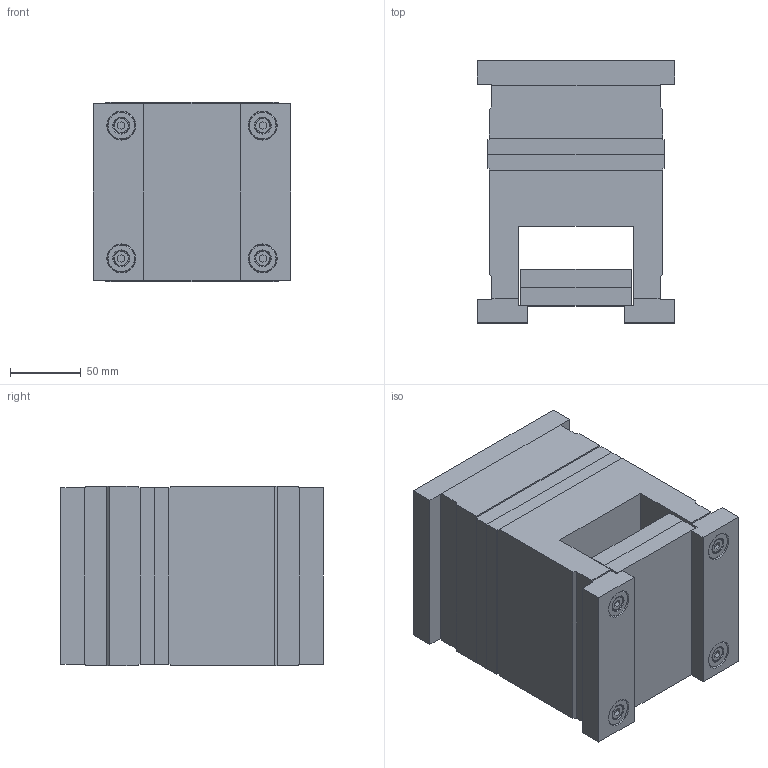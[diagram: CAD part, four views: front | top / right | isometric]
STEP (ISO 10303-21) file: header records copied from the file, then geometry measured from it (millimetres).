
FILE_DESCRIPTION (( 'STEP AP214' ), '1' );
FILE_NAME ('1251.STEP', '2002-07-10T07:47:22', ( 'Simcha Kilim' ), ( 'K. Plastics Engineering' ), 'SwSTEP 2.0', 'SolidWorks 2002025', '' );
FILE_SCHEMA (( 'AUTOMOTIVE_DESIGN' ));
Length unit declared in the file: millimetre
Products named in the file (12): 1251; ALMO (ejector half)_1251; ALMO (hot half)_1251; ALMO (guide bush)_Ø11; ALMO (screw)_M6x80; ALMO (ejector plate)_1251; ALMO (guide pin)_Ø10; ALMO (guide pin)_Ø11; ALMO (screw)_M6x50; ALMO (ejector return plate)_1251; ALMO (guide bush)_Ø10; ALMO (key plate)_Ø10
Assembly tree (28 placements, depth 2):
  1251
    ALMO (key plate)_Ø10  x8
    ALMO (screw)_M6x80  x4
    ALMO (screw)_M6x50  x4
    ALMO (guide pin)_Ø10  x3
    ALMO (guide bush)_Ø10  x3
    ALMO (hot half)_1251
    ALMO (guide pin)_Ø11
    ALMO (ejector half)_1251
    ALMO (guide bush)_Ø11
    ALMO (ejector return plate)_1251
    ALMO (ejector plate)_1251
Bounding box: 140 x 185.5 x 127 mm (x, y, z)
Volume: 2456200.5 mm3; surface area: 304718.2 mm2
Topology: 28 solids, 28 shells, 706 faces, 1496 edges, 924 vertices
Faces by surface type: cylinder 260, plane 254, cone 192
Entity records: 10477 total; most frequent: DIRECTION 1914, CARTESIAN_POINT 1683, ORIENTED_EDGE 1584, EDGE_CURVE 792, AXIS2_PLACEMENT_3D 729, VERTEX_POINT 498, VECTOR 456, LINE 456
